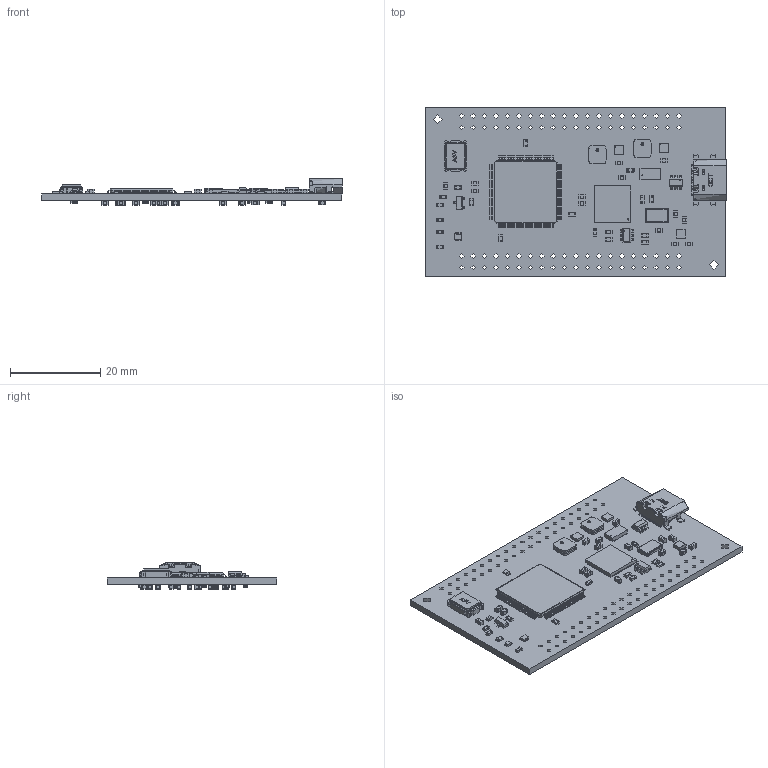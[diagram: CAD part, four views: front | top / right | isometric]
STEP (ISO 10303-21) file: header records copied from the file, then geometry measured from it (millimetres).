
FILE_DESCRIPTION(('KiCad electronic assembly'),'2;1');
FILE_NAME('xlm1001_module.step','2025-08-26T12:31:39',('Pcbnew'),( 'Kicad'),'Open CASCADE STEP processor 7.6','KiCad to STEP converter' ,'Unknown');
FILE_SCHEMA(('AUTOMOTIVE_DESIGN { 1 0 10303 214 1 1 1 1 }'));
Length unit declared in the file: millimetre
Products named in the file (143): xlm1001_module 1; MLF-8_MT_MCH; LTST-C191KGKT; C_0603_1608Metric; R_0603_1608Metric; Solid2; Solid1; Solid3; LQFP100; LQFP-100_PINS; BODY; VQFN20--RKS_TEX; ASV; ECS-240-18-30B-CHN-TR; SOT23-6L_STM; FT4232H-56Q-TRAY; TOSHIBA_SSM6N35AFE_LF_ES6; Lead1; Lead6; Lead2; Lead3; Lead5; Lead4; Mold; GCT-USB4110-GF-A; Ãƒâ€¡ÃƒÂÃ‚Â³ÃƒÂ½-\N\
Ãƒâ‚¬Ã‚Â­Ãƒâ€°ÃƒÂ¬1\N\2; Shapes; X-axis; XY-plane; VLS4012CX-1R0M-1; TQFN8_2x2MM; xlm1001_module 1.37.1; xlm1001_module 1.37.2; xlm1001_module 1.37.3; xlm1001_module 1.37.4; xlm1001_module 1.37.5; xlm1001_module 1.37.6; xlm1001_module 1.37.7; xlm1001_module 1.37.8; xlm1001_module 1.37.9 ...
Assembly tree (209 placements, depth 4):
  xlm1001_module 1
    MLF-8_MT_MCH  x2
    LTST-C191KGKT  x4
    C_0603_1608Metric  x37
    R_0603_1608Metric  x19
      Solid2
      Solid1
      Solid2
      Solid3
    LQFP100
      LQFP-100_PINS
      LQFP-100_PINS
      LQFP-100_PINS
      LQFP-100_PINS
      LQFP-100_PINS
      LQFP-100_PINS
      LQFP-100_PINS
      LQFP-100_PINS
      LQFP-100_PINS
      LQFP-100_PINS
      LQFP-100_PINS
      LQFP-100_PINS
      LQFP-100_PINS
      LQFP-100_PINS
      LQFP-100_PINS
      LQFP-100_PINS
      LQFP-100_PINS
      LQFP-100_PINS
      LQFP-100_PINS
      LQFP-100_PINS
      LQFP-100_PINS
      LQFP-100_PINS
      LQFP-100_PINS
      LQFP-100_PINS
      LQFP-100_PINS
      LQFP-100_PINS
      LQFP-100_PINS
      LQFP-100_PINS
      LQFP-100_PINS
      LQFP-100_PINS
      LQFP-100_PINS
      LQFP-100_PINS
      LQFP-100_PINS
      LQFP-100_PINS
      LQFP-100_PINS
      LQFP-100_PINS
      LQFP-100_PINS
      LQFP-100_PINS
      LQFP-100_PINS
      LQFP-100_PINS
      LQFP-100_PINS
      LQFP-100_PINS
      LQFP-100_PINS
      LQFP-100_PINS
      LQFP-100_PINS
      LQFP-100_PINS
      LQFP-100_PINS
      LQFP-100_PINS
      LQFP-100_PINS
      LQFP-100_PINS
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Bounding box: 66.75 x 37.59 x 5.84 mm (x, y, z)
Volume: 4160 mm3; surface area: 8490 mm2
Topology: 428 solids, 529 shells, 8926 faces, 21495 edges, 13127 vertices
Faces by surface type: bspline 4707, plane 2446, cylinder 1453, sphere 316, torus 4
Full cylindrical faces by diameter (mm): 0.088 x2, 0.1 x2, 0.13 x1, 0.762 x2, 1.016 x80, 2 x2
Entity records: 144058 total; most frequent: CARTESIAN_POINT 48851, ORIENTED_EDGE 24174, EDGE_CURVE 12487, DIRECTION 9769, VERTEX_POINT 7690, B_SPLINE_CURVE_WITH_KNOTS 6723, FACE_BOUND 5387, EDGE_LOOP 5387
